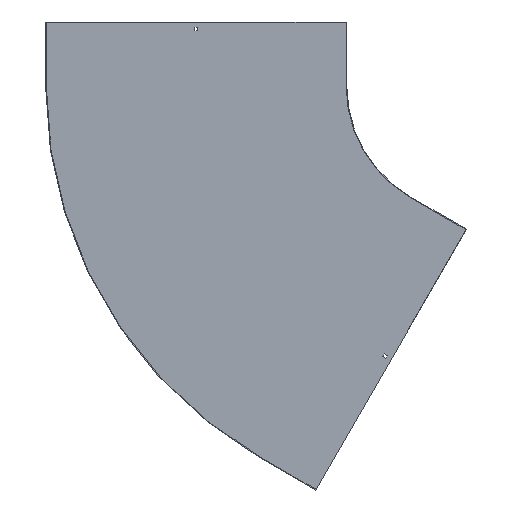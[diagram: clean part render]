
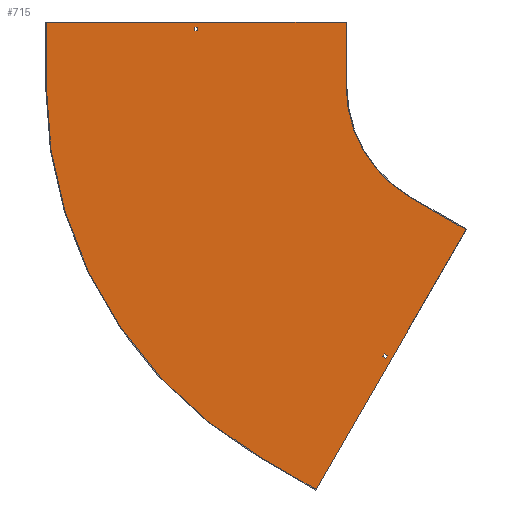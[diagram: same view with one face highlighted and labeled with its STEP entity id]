
A CAD part, front view. The second image highlights one B-rep face of the part: STEP entity #715.
In plain terms, the highlighted planar face has unit normal (0, -1, 0).
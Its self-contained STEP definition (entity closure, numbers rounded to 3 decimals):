
#10 = EDGE_CURVE ( 'NONE', #733, #716, #148, .T. ) ;
#14 = CARTESIAN_POINT ( 'NONE',  ( -653.25, -1.5, 0. ) ) ;
#19 = DIRECTION ( 'NONE',  ( 0., 0., 1. ) ) ;
#20 = VECTOR ( 'NONE', #572, 1000. ) ;
#30 = LINE ( 'NONE', #297, #65 ) ;
#34 = ORIENTED_EDGE ( 'NONE', *, *, #313, .F. ) ;
#36 = CARTESIAN_POINT ( 'NONE',  ( 0., -1.5, 0. ) ) ;
#60 = CARTESIAN_POINT ( 'NONE',  ( -1000., -1.5, 150. ) ) ;
#65 = VECTOR ( 'NONE', #618, 1000. ) ;
#71 = DIRECTION ( 'NONE',  ( 0., 0., -1. ) ) ;
#78 = CARTESIAN_POINT ( 'NONE',  ( -1000., -1.5, 0. ) ) ;
#80 = CARTESIAN_POINT ( 'NONE',  ( -646.75, -1.5, 129. ) ) ;
#90 = ORIENTED_EDGE ( 'NONE', *, *, #10, .F. ) ;
#92 = EDGE_CURVE ( 'NONE', #193, #112, #754, .T. ) ;
#97 = VECTOR ( 'NONE', #628, 1000. ) ;
#102 = LINE ( 'NONE', #187, #768 ) ;
#112 = VERTEX_POINT ( 'NONE', #558 ) ;
#113 = LINE ( 'NONE', #847, #97 ) ;
#125 = VECTOR ( 'NONE', #698, 1000. ) ;
#131 = DIRECTION ( 'NONE',  ( 0., -1., 0. ) ) ;
#135 = CARTESIAN_POINT ( 'NONE',  ( 0., -1.5, 0. ) ) ;
#148 = CIRCLE ( 'NONE', #379, 1000. ) ;
#174 = CARTESIAN_POINT ( 'NONE',  ( -203.863, -1.5, -629.102 ) ) ;
#185 = VECTOR ( 'NONE', #663, 1000. ) ;
#187 = CARTESIAN_POINT ( 'NONE',  ( -646.75, -1.5, 0. ) ) ;
#193 = VERTEX_POINT ( 'NONE', #368 ) ;
#194 = EDGE_CURVE ( 'NONE', #298, #206, #613, .T. ) ;
#196 = ORIENTED_EDGE ( 'NONE', *, *, #204, .T. ) ;
#200 = DIRECTION ( 'NONE',  ( 0., 0., -1. ) ) ;
#201 = VERTEX_POINT ( 'NONE', #207 ) ;
#202 = CARTESIAN_POINT ( 'NONE',  ( -300., -1.5, 150. ) ) ;
#204 = EDGE_CURVE ( 'NONE', #796, #343, #651, .T. ) ;
#206 = VERTEX_POINT ( 'NONE', #202 ) ;
#207 = CARTESIAN_POINT ( 'NONE',  ( -20.096, -1.5, -334.808 ) ) ;
#210 = EDGE_CURVE ( 'NONE', #490, #556, #350, .T. ) ;
#214 = VECTOR ( 'NONE', #342, 1000. ) ;
#223 = EDGE_CURVE ( 'NONE', #541, #201, #288, .T. ) ;
#225 = DIRECTION ( 'NONE',  ( -0.5, 0., -0.866 ) ) ;
#242 = EDGE_LOOP ( 'NONE', ( #439, #845, #196, #309 ) ) ;
#246 = ORIENTED_EDGE ( 'NONE', *, *, #194, .F. ) ;
#255 = CARTESIAN_POINT ( 'NONE',  ( -214.908, -1.5, -630.231 ) ) ;
#257 = CARTESIAN_POINT ( 'NONE',  ( -150., -1.5, -259.808 ) ) ;
#272 = ORIENTED_EDGE ( 'NONE', *, *, #210, .F. ) ;
#273 = EDGE_CURVE ( 'NONE', #112, #796, #102, .T. ) ;
#278 = CARTESIAN_POINT ( 'NONE',  ( -1000., -1.5, 0. ) ) ;
#286 = ORIENTED_EDGE ( 'NONE', *, *, #671, .F. ) ;
#288 = LINE ( 'NONE', #602, #567 ) ;
#297 = CARTESIAN_POINT ( 'NONE',  ( 119.512, -1.5, -69. ) ) ;
#298 = VERTEX_POINT ( 'NONE', #60 ) ;
#300 = ORIENTED_EDGE ( 'NONE', *, *, #475, .F. ) ;
#309 = ORIENTED_EDGE ( 'NONE', *, *, #436, .T. ) ;
#311 = DIRECTION ( 'NONE',  ( 0., 0., -1. ) ) ;
#313 = EDGE_CURVE ( 'NONE', #206, #317, #634, .T. ) ;
#317 = VERTEX_POINT ( 'NONE', #838 ) ;
#321 = VECTOR ( 'NONE', #362, 1000. ) ;
#325 = CARTESIAN_POINT ( 'NONE',  ( -1001.5, -1.5, 150. ) ) ;
#329 = ORIENTED_EDGE ( 'NONE', *, *, #223, .F. ) ;
#331 = CARTESIAN_POINT ( 'NONE',  ( 0., -1.5, 129. ) ) ;
#332 = CARTESIAN_POINT ( 'NONE',  ( -500., -1.5, -866.025 ) ) ;
#333 = VECTOR ( 'NONE', #857, 1000. ) ;
#341 = DIRECTION ( 'NONE',  ( -1., 0., 0. ) ) ;
#342 = DIRECTION ( 'NONE',  ( 0., 0., 1. ) ) ;
#343 = VERTEX_POINT ( 'NONE', #534 ) ;
#345 = PLANE ( 'NONE',  #511 ) ;
#346 = EDGE_LOOP ( 'NONE', ( #650, #300, #584, #272 ) ) ;
#350 = LINE ( 'NONE', #750, #810 ) ;
#362 = DIRECTION ( 'NONE',  ( 1., 0., 0. ) ) ;
#368 = CARTESIAN_POINT ( 'NONE',  ( -653.25, -1.5, 138. ) ) ;
#369 = CARTESIAN_POINT ( 'NONE',  ( 0., -1.5, 138. ) ) ;
#374 = CARTESIAN_POINT ( 'NONE',  ( -207.113, -1.5, -634.731 ) ) ;
#379 = AXIS2_PLACEMENT_3D ( 'NONE', #36, #614, #311 ) ;
#391 = EDGE_LOOP ( 'NONE', ( #246, #286, #90, #590, #395, #329, #545, #34 ) ) ;
#395 = ORIENTED_EDGE ( 'NONE', *, *, #504, .F. ) ;
#406 = FACE_OUTER_BOUND ( 'NONE', #391, .T. ) ;
#409 = DIRECTION ( 'NONE',  ( 0.866, 0., -0.5 ) ) ;
#414 = LINE ( 'NONE', #599, #185 ) ;
#416 = CIRCLE ( 'NONE', #774, 300. ) ;
#419 = CARTESIAN_POINT ( 'NONE',  ( -211.658, -1.5, -624.602 ) ) ;
#427 = LINE ( 'NONE', #14, #579 ) ;
#432 = DIRECTION ( 'NONE',  ( 0., 0., -1. ) ) ;
#436 = EDGE_CURVE ( 'NONE', #343, #193, #427, .T. ) ;
#439 = ORIENTED_EDGE ( 'NONE', *, *, #92, .T. ) ;
#445 = EDGE_CURVE ( 'NONE', #785, #490, #543, .T. ) ;
#453 = LINE ( 'NONE', #513, #125 ) ;
#459 = VERTEX_POINT ( 'NONE', #814 ) ;
#469 = DIRECTION ( 'NONE',  ( 0., -1., 0. ) ) ;
#475 = EDGE_CURVE ( 'NONE', #853, #785, #30, .T. ) ;
#490 = VERTEX_POINT ( 'NONE', #419 ) ;
#504 = EDGE_CURVE ( 'NONE', #201, #459, #414, .T. ) ;
#511 = AXIS2_PLACEMENT_3D ( 'NONE', #788, #469, #71 ) ;
#513 = CARTESIAN_POINT ( 'NONE',  ( -326.625, -1.5, -565.731 ) ) ;
#534 = CARTESIAN_POINT ( 'NONE',  ( -653.25, -1.5, 129. ) ) ;
#538 = DIRECTION ( 'NONE',  ( -0.866, 0., 0.5 ) ) ;
#541 = VERTEX_POINT ( 'NONE', #257 ) ;
#543 = LINE ( 'NONE', #739, #778 ) ;
#545 = ORIENTED_EDGE ( 'NONE', *, *, #704, .F. ) ;
#556 = VERTEX_POINT ( 'NONE', #255 ) ;
#558 = CARTESIAN_POINT ( 'NONE',  ( -646.75, -1.5, 138. ) ) ;
#567 = VECTOR ( 'NONE', #409, 1000. ) ;
#570 = LINE ( 'NONE', #78, #214 ) ;
#572 = DIRECTION ( 'NONE',  ( 0., 0., -1. ) ) ;
#579 = VECTOR ( 'NONE', #19, 1000. ) ;
#584 = ORIENTED_EDGE ( 'NONE', *, *, #600, .F. ) ;
#590 = ORIENTED_EDGE ( 'NONE', *, *, #664, .F. ) ;
#599 = CARTESIAN_POINT ( 'NONE',  ( -19.346, -1.5, -333.509 ) ) ;
#600 = EDGE_CURVE ( 'NONE', #556, #853, #453, .T. ) ;
#602 = CARTESIAN_POINT ( 'NONE',  ( -150., -1.5, -259.808 ) ) ;
#613 = LINE ( 'NONE', #325, #333 ) ;
#614 = DIRECTION ( 'NONE',  ( 0., 1., 0. ) ) ;
#618 = DIRECTION ( 'NONE',  ( 0.5, 0., 0.866 ) ) ;
#628 = DIRECTION ( 'NONE',  ( -0.866, 0., 0.5 ) ) ;
#630 = CARTESIAN_POINT ( 'NONE',  ( -300., -1.5, 150. ) ) ;
#634 = LINE ( 'NONE', #630, #20 ) ;
#650 = ORIENTED_EDGE ( 'NONE', *, *, #445, .F. ) ;
#651 = LINE ( 'NONE', #331, #841 ) ;
#658 = FACE_BOUND ( 'NONE', #242, .T. ) ;
#659 = FACE_BOUND ( 'NONE', #346, .T. ) ;
#663 = DIRECTION ( 'NONE',  ( -0.5, 0., -0.866 ) ) ;
#664 = EDGE_CURVE ( 'NONE', #459, #733, #113, .T. ) ;
#671 = EDGE_CURVE ( 'NONE', #716, #298, #570, .T. ) ;
#698 = DIRECTION ( 'NONE',  ( 0.866, 0., -0.5 ) ) ;
#704 = EDGE_CURVE ( 'NONE', #317, #541, #416, .T. ) ;
#715 = ADVANCED_FACE ( 'NONE', ( #659, #406, #658 ), #345, .T. ) ;
#716 = VERTEX_POINT ( 'NONE', #278 ) ;
#733 = VERTEX_POINT ( 'NONE', #332 ) ;
#739 = CARTESIAN_POINT ( 'NONE',  ( -323.375, -1.5, -560.102 ) ) ;
#750 = CARTESIAN_POINT ( 'NONE',  ( 111.717, -1.5, -64.5 ) ) ;
#754 = LINE ( 'NONE', #369, #321 ) ;
#768 = VECTOR ( 'NONE', #432, 1000. ) ;
#774 = AXIS2_PLACEMENT_3D ( 'NONE', #135, #131, #200 ) ;
#778 = VECTOR ( 'NONE', #538, 1000. ) ;
#785 = VERTEX_POINT ( 'NONE', #174 ) ;
#788 = CARTESIAN_POINT ( 'NONE',  ( 0., -1.5, 0. ) ) ;
#796 = VERTEX_POINT ( 'NONE', #80 ) ;
#810 = VECTOR ( 'NONE', #225, 1000. ) ;
#814 = CARTESIAN_POINT ( 'NONE',  ( -370.096, -1.5, -941.025 ) ) ;
#838 = CARTESIAN_POINT ( 'NONE',  ( -300., -1.5, 0. ) ) ;
#841 = VECTOR ( 'NONE', #341, 1000. ) ;
#845 = ORIENTED_EDGE ( 'NONE', *, *, #273, .T. ) ;
#847 = CARTESIAN_POINT ( 'NONE',  ( -370.096, -1.5, -941.025 ) ) ;
#853 = VERTEX_POINT ( 'NONE', #374 ) ;
#857 = DIRECTION ( 'NONE',  ( 1., 0., 0. ) ) ;
